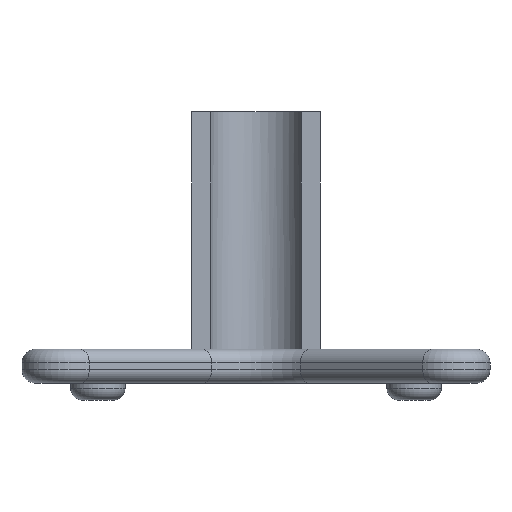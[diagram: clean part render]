
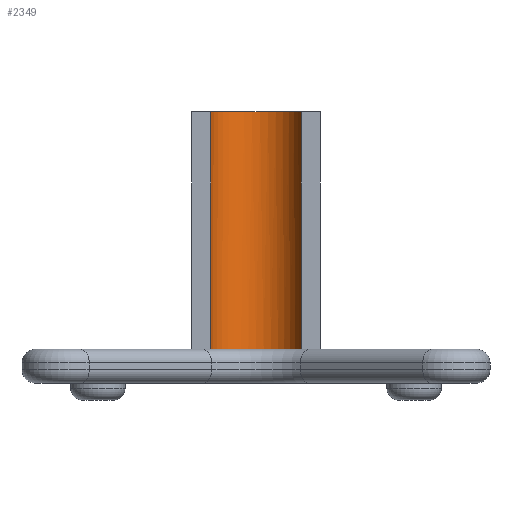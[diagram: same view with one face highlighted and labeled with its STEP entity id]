
A CAD part, left-side view. The second image highlights one B-rep face of the part: STEP entity #2349.
In plain terms, the highlighted cylindrical face has radius 7 mm (diameter 14 mm), a partial arc.
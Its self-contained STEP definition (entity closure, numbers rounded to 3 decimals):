
#120 = CYLINDRICAL_SURFACE('',#121,7.);
#121 = AXIS2_PLACEMENT_3D('',#122,#123,#124);
#122 = CARTESIAN_POINT('',(0.,0.,0.));
#123 = DIRECTION('',(-0.,-0.,-1.));
#124 = DIRECTION('',(1.,0.,0.));
#147 = CYLINDRICAL_SURFACE('',#148,7.);
#148 = AXIS2_PLACEMENT_3D('',#149,#150,#151);
#149 = CARTESIAN_POINT('',(0.,0.,0.));
#150 = DIRECTION('',(-0.,-0.,-1.));
#151 = DIRECTION('',(1.,0.,0.));
#919 = VERTEX_POINT('',#920);
#920 = CARTESIAN_POINT('',(2.027,-6.7,5.));
#941 = EDGE_CURVE('',#919,#942,#944,.T.);
#942 = VERTEX_POINT('',#943);
#943 = CARTESIAN_POINT('',(7.,0.,5.));
#944 = SURFACE_CURVE('',#945,(#950,#957),.PCURVE_S1.);
#945 = CIRCLE('',#946,7.);
#946 = AXIS2_PLACEMENT_3D('',#947,#948,#949);
#947 = CARTESIAN_POINT('',(0.,0.,5.));
#948 = DIRECTION('',(0.,0.,1.));
#949 = DIRECTION('',(1.,0.,0.));
#950 = PCURVE('',#147,#951);
#951 = DEFINITIONAL_REPRESENTATION('',(#952),#956);
#952 = LINE('',#953,#954);
#953 = CARTESIAN_POINT('',(-0.,-5.));
#954 = VECTOR('',#955,1.);
#955 = DIRECTION('',(-1.,0.));
#956 = ( GEOMETRIC_REPRESENTATION_CONTEXT(2) 
PARAMETRIC_REPRESENTATION_CONTEXT() REPRESENTATION_CONTEXT('2D SPACE',''
  ) );
#957 = PCURVE('',#958,#963);
#958 = CYLINDRICAL_SURFACE('',#959,7.);
#959 = AXIS2_PLACEMENT_3D('',#960,#961,#962);
#960 = CARTESIAN_POINT('',(0.,0.,0.));
#961 = DIRECTION('',(-0.,-0.,-1.));
#962 = DIRECTION('',(1.,0.,0.));
#963 = DEFINITIONAL_REPRESENTATION('',(#964),#968);
#964 = LINE('',#965,#966);
#965 = CARTESIAN_POINT('',(-0.,-5.));
#966 = VECTOR('',#967,1.);
#967 = DIRECTION('',(-1.,0.));
#968 = ( GEOMETRIC_REPRESENTATION_CONTEXT(2) 
PARAMETRIC_REPRESENTATION_CONTEXT() REPRESENTATION_CONTEXT('2D SPACE',''
  ) );
#996 = EDGE_CURVE('',#942,#997,#999,.T.);
#997 = VERTEX_POINT('',#998);
#998 = CARTESIAN_POINT('',(2.027,6.7,5.));
#999 = SURFACE_CURVE('',#1000,(#1005,#1012),.PCURVE_S1.);
#1000 = CIRCLE('',#1001,7.);
#1001 = AXIS2_PLACEMENT_3D('',#1002,#1003,#1004);
#1002 = CARTESIAN_POINT('',(0.,0.,5.));
#1003 = DIRECTION('',(0.,0.,1.));
#1004 = DIRECTION('',(1.,0.,0.));
#1005 = PCURVE('',#120,#1006);
#1006 = DEFINITIONAL_REPRESENTATION('',(#1007),#1011);
#1007 = LINE('',#1008,#1009);
#1008 = CARTESIAN_POINT('',(-6.283,-5.));
#1009 = VECTOR('',#1010,1.);
#1010 = DIRECTION('',(-1.,0.));
#1011 = ( GEOMETRIC_REPRESENTATION_CONTEXT(2) 
PARAMETRIC_REPRESENTATION_CONTEXT() REPRESENTATION_CONTEXT('2D SPACE',''
  ) );
#1012 = PCURVE('',#958,#1013);
#1013 = DEFINITIONAL_REPRESENTATION('',(#1014),#1018);
#1014 = LINE('',#1015,#1016);
#1015 = CARTESIAN_POINT('',(-6.283,-5.));
#1016 = VECTOR('',#1017,1.);
#1017 = DIRECTION('',(-1.,0.));
#1018 = ( GEOMETRIC_REPRESENTATION_CONTEXT(2) 
PARAMETRIC_REPRESENTATION_CONTEXT() REPRESENTATION_CONTEXT('2D SPACE',''
  ) );
#2349 = ADVANCED_FACE('',(#2350),#958,.F.);
#2350 = FACE_BOUND('',#2351,.T.);
#2351 = EDGE_LOOP('',(#2352,#2353,#2381,#2410,#2436));
#2352 = ORIENTED_EDGE('',*,*,#941,.F.);
#2353 = ORIENTED_EDGE('',*,*,#2354,.T.);
#2354 = EDGE_CURVE('',#919,#2355,#2357,.T.);
#2355 = VERTEX_POINT('',#2356);
#2356 = CARTESIAN_POINT('',(2.027,-6.7,40.));
#2357 = SURFACE_CURVE('',#2358,(#2362,#2369),.PCURVE_S1.);
#2358 = LINE('',#2359,#2360);
#2359 = CARTESIAN_POINT('',(2.027,-6.7,0.));
#2360 = VECTOR('',#2361,1.);
#2361 = DIRECTION('',(0.,0.,1.));
#2362 = PCURVE('',#958,#2363);
#2363 = DEFINITIONAL_REPRESENTATION('',(#2364),#2368);
#2364 = LINE('',#2365,#2366);
#2365 = CARTESIAN_POINT('',(-5.006,0.));
#2366 = VECTOR('',#2367,1.);
#2367 = DIRECTION('',(-0.,-1.));
#2368 = ( GEOMETRIC_REPRESENTATION_CONTEXT(2) 
PARAMETRIC_REPRESENTATION_CONTEXT() REPRESENTATION_CONTEXT('2D SPACE',''
  ) );
#2369 = PCURVE('',#2370,#2375);
#2370 = PLANE('',#2371);
#2371 = AXIS2_PLACEMENT_3D('',#2372,#2373,#2374);
#2372 = CARTESIAN_POINT('',(2.027,-6.7,0.));
#2373 = DIRECTION('',(1.,0.,0.));
#2374 = DIRECTION('',(0.,-1.,0.));
#2375 = DEFINITIONAL_REPRESENTATION('',(#2376),#2380);
#2376 = LINE('',#2377,#2378);
#2377 = CARTESIAN_POINT('',(0.,0.));
#2378 = VECTOR('',#2379,1.);
#2379 = DIRECTION('',(0.,-1.));
#2380 = ( GEOMETRIC_REPRESENTATION_CONTEXT(2) 
PARAMETRIC_REPRESENTATION_CONTEXT() REPRESENTATION_CONTEXT('2D SPACE',''
  ) );
#2381 = ORIENTED_EDGE('',*,*,#2382,.T.);
#2382 = EDGE_CURVE('',#2355,#2383,#2385,.T.);
#2383 = VERTEX_POINT('',#2384);
#2384 = CARTESIAN_POINT('',(2.027,6.7,40.));
#2385 = SURFACE_CURVE('',#2386,(#2391,#2398),.PCURVE_S1.);
#2386 = CIRCLE('',#2387,7.);
#2387 = AXIS2_PLACEMENT_3D('',#2388,#2389,#2390);
#2388 = CARTESIAN_POINT('',(0.,0.,40.));
#2389 = DIRECTION('',(0.,0.,1.));
#2390 = DIRECTION('',(1.,0.,0.));
#2391 = PCURVE('',#958,#2392);
#2392 = DEFINITIONAL_REPRESENTATION('',(#2393),#2397);
#2393 = LINE('',#2394,#2395);
#2394 = CARTESIAN_POINT('',(-0.,-40.));
#2395 = VECTOR('',#2396,1.);
#2396 = DIRECTION('',(-1.,0.));
#2397 = ( GEOMETRIC_REPRESENTATION_CONTEXT(2) 
PARAMETRIC_REPRESENTATION_CONTEXT() REPRESENTATION_CONTEXT('2D SPACE',''
  ) );
#2398 = PCURVE('',#2399,#2404);
#2399 = PLANE('',#2400);
#2400 = AXIS2_PLACEMENT_3D('',#2401,#2402,#2403);
#2401 = CARTESIAN_POINT('',(5.414,0.,40.));
#2402 = DIRECTION('',(0.,0.,1.));
#2403 = DIRECTION('',(1.,0.,0.));
#2404 = DEFINITIONAL_REPRESENTATION('',(#2405),#2409);
#2405 = CIRCLE('',#2406,7.);
#2406 = AXIS2_PLACEMENT_2D('',#2407,#2408);
#2407 = CARTESIAN_POINT('',(-5.414,0.));
#2408 = DIRECTION('',(1.,0.));
#2409 = ( GEOMETRIC_REPRESENTATION_CONTEXT(2) 
PARAMETRIC_REPRESENTATION_CONTEXT() REPRESENTATION_CONTEXT('2D SPACE',''
  ) );
#2410 = ORIENTED_EDGE('',*,*,#2411,.F.);
#2411 = EDGE_CURVE('',#997,#2383,#2412,.T.);
#2412 = SURFACE_CURVE('',#2413,(#2417,#2424),.PCURVE_S1.);
#2413 = LINE('',#2414,#2415);
#2414 = CARTESIAN_POINT('',(2.027,6.7,0.));
#2415 = VECTOR('',#2416,1.);
#2416 = DIRECTION('',(0.,0.,1.));
#2417 = PCURVE('',#958,#2418);
#2418 = DEFINITIONAL_REPRESENTATION('',(#2419),#2423);
#2419 = LINE('',#2420,#2421);
#2420 = CARTESIAN_POINT('',(-7.56,0.));
#2421 = VECTOR('',#2422,1.);
#2422 = DIRECTION('',(-0.,-1.));
#2423 = ( GEOMETRIC_REPRESENTATION_CONTEXT(2) 
PARAMETRIC_REPRESENTATION_CONTEXT() REPRESENTATION_CONTEXT('2D SPACE',''
  ) );
#2424 = PCURVE('',#2425,#2430);
#2425 = PLANE('',#2426);
#2426 = AXIS2_PLACEMENT_3D('',#2427,#2428,#2429);
#2427 = CARTESIAN_POINT('',(2.027,9.478,0.));
#2428 = DIRECTION('',(1.,0.,0.));
#2429 = DIRECTION('',(0.,-1.,0.));
#2430 = DEFINITIONAL_REPRESENTATION('',(#2431),#2435);
#2431 = LINE('',#2432,#2433);
#2432 = CARTESIAN_POINT('',(2.778,0.));
#2433 = VECTOR('',#2434,1.);
#2434 = DIRECTION('',(0.,-1.));
#2435 = ( GEOMETRIC_REPRESENTATION_CONTEXT(2) 
PARAMETRIC_REPRESENTATION_CONTEXT() REPRESENTATION_CONTEXT('2D SPACE',''
  ) );
#2436 = ORIENTED_EDGE('',*,*,#996,.F.);
